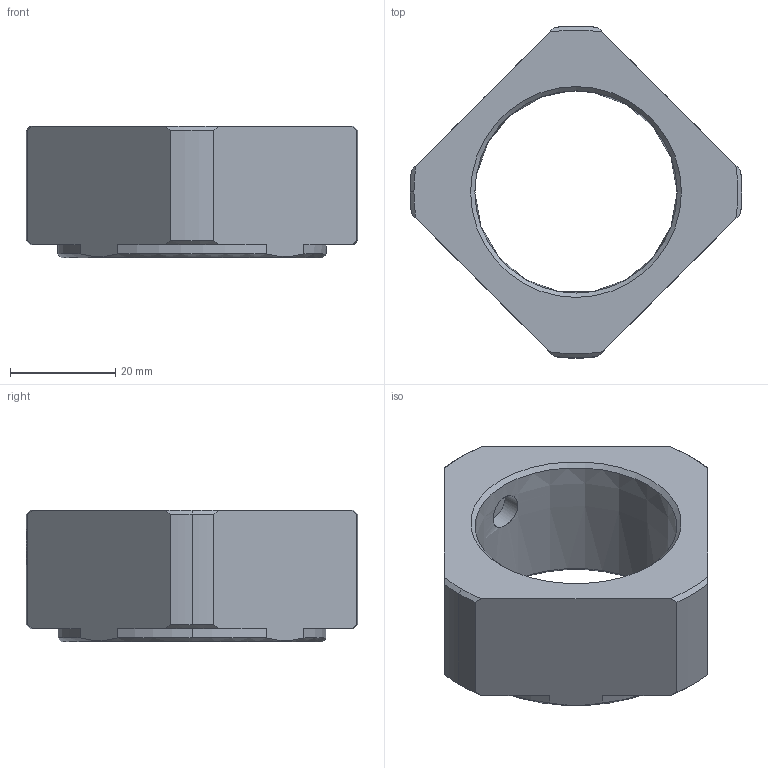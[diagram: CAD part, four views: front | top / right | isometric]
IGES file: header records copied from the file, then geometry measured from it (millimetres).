
Start section: Data from Parasolid IGES Translator 26.0.171, Copyright(c) 2006 Siemens PLM Software. All Rights Reserved.
Global section: file name: RN 40.igs; native system: By Siemens PLM Incorporated; preprocessor: XPlus GENERIC/IGES 26.0.171; author: Noname; organization: Noname; date: 20250611.074238; units: millimetre
Bounding box: 63 x 62.97 x 25 mm (x, y, z)
Surface area: 10094 mm2 (no closed solid volume)
Topology: 0 solids, 0 shells, 46 faces, 242 edges, 239 vertices
Faces by surface type: revolution 27, extrusion 19
